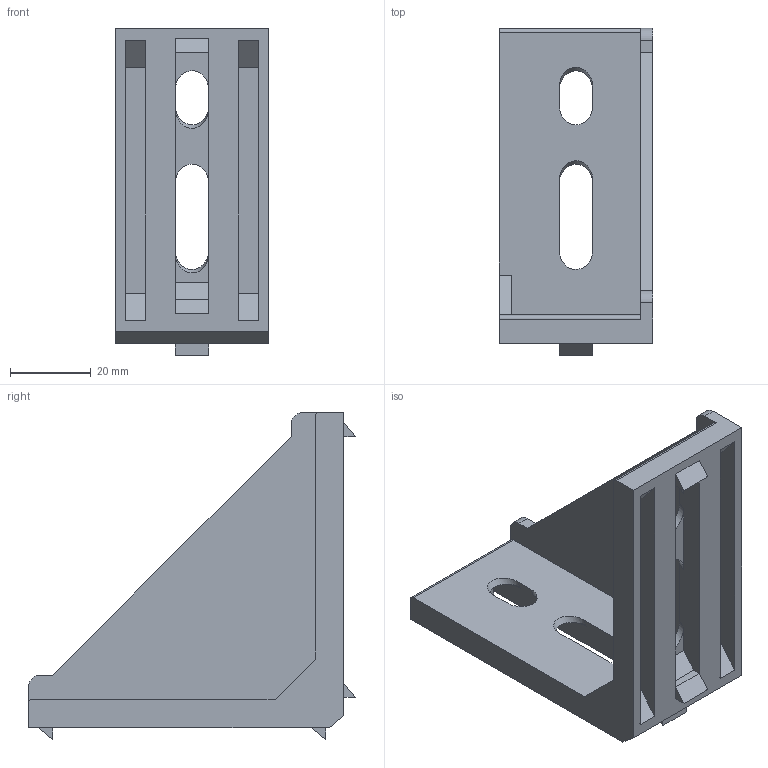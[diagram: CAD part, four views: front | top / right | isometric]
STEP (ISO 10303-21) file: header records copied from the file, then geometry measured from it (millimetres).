
FILE_DESCRIPTION (( 'STEP AP203' ), '1' );
FILE_NAME ('LIMA-GE40X80.STEP', '2018-03-15T12:45:35', ( '' ), ( '' ), 'SwSTEP 2.0', 'SolidWorks 2013', '' );
FILE_SCHEMA (( 'CONFIG_CONTROL_DESIGN' ));
Length unit declared in the file: millimetre
Products named in the file (1): LIMA-GE40X80
Bounding box: 38 x 80.94 x 80.94 mm (x, y, z)
Volume: 34057.7 mm3; surface area: 22470.2 mm2
Topology: 1 solids, 1 shells, 80 faces, 216 edges, 140 vertices
Faces by surface type: plane 64, cylinder 16
Entity records: 2545 total; most frequent: CARTESIAN_POINT 509, ORIENTED_EDGE 432, DIRECTION 362, EDGE_CURVE 216, LINE 184, VECTOR 184, VERTEX_POINT 140, EDGE_LOOP 90
